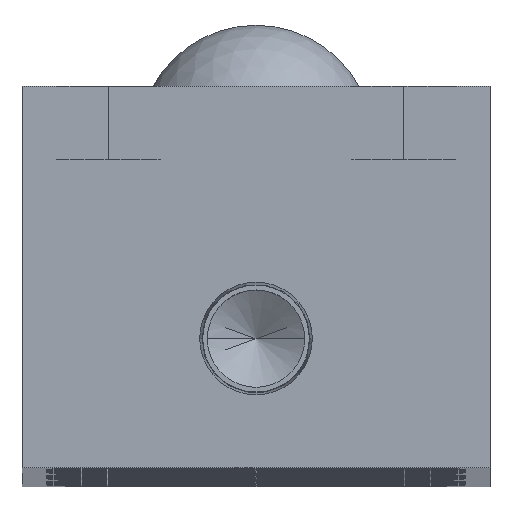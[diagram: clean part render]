
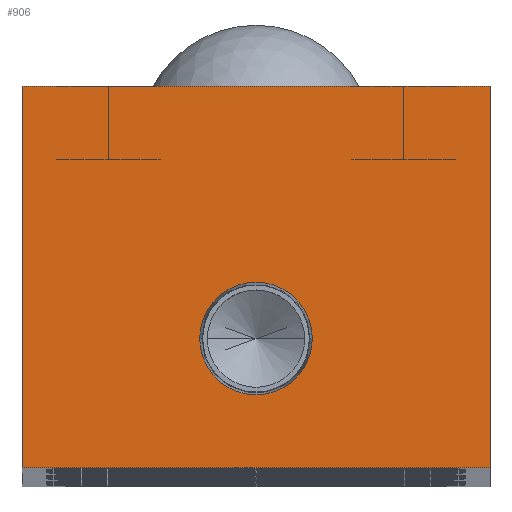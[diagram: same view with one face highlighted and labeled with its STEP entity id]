
A CAD part, top view. The second image highlights one B-rep face of the part: STEP entity #906.
In plain terms, the highlighted planar face has unit normal (0, 0, 1).
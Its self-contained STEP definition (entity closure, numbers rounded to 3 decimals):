
#83 = FACE_OUTER_BOUND ( 'NONE', #9187, .T. ) ;
#174 = DIRECTION ( 'NONE',  ( 0., -1., 0. ) ) ;
#435 = EDGE_CURVE ( 'NONE', #8720, #11253, #15647, .T. ) ;
#906 = ADVANCED_FACE ( 'NONE', ( #12535, #83 ), #2141, .F. ) ;
#1332 = CARTESIAN_POINT ( 'NONE',  ( 0., 10.5, 0. ) ) ;
#1415 = CARTESIAN_POINT ( 'NONE',  ( 19., 0., 0. ) ) ;
#2141 = PLANE ( 'NONE',  #12332 ) ;
#2210 = DIRECTION ( 'NONE',  ( -1., 0., 0. ) ) ;
#2253 = VECTOR ( 'NONE', #174, 1000. ) ;
#2644 = CARTESIAN_POINT ( 'NONE',  ( 19., 31., 0. ) ) ;
#2736 = VERTEX_POINT ( 'NONE', #7935 ) ;
#2841 = ORIENTED_EDGE ( 'NONE', *, *, #435, .T. ) ;
#2888 = DIRECTION ( 'NONE',  ( 1., 0., 0. ) ) ;
#3145 = EDGE_CURVE ( 'NONE', #2736, #8837, #11719, .T. ) ;
#3522 = VECTOR ( 'NONE', #10276, 1000. ) ;
#3552 = VERTEX_POINT ( 'NONE', #1415 ) ;
#5576 = CARTESIAN_POINT ( 'NONE',  ( -19., 31., 0. ) ) ;
#6105 = CARTESIAN_POINT ( 'NONE',  ( -4.574, 10.5, 0. ) ) ;
#6382 = LINE ( 'NONE', #12594, #2253 ) ;
#7151 = DIRECTION ( 'NONE',  ( -1., 0., 0. ) ) ;
#7671 = EDGE_CURVE ( 'NONE', #3552, #8720, #14231, .T. ) ;
#7672 = CARTESIAN_POINT ( 'NONE',  ( -19., 31., 0. ) ) ;
#7836 = CARTESIAN_POINT ( 'NONE',  ( 0., 10.5, 0. ) ) ;
#7935 = CARTESIAN_POINT ( 'NONE',  ( 4.574, 10.5, 0. ) ) ;
#8446 = ORIENTED_EDGE ( 'NONE', *, *, #17530, .F. ) ;
#8720 = VERTEX_POINT ( 'NONE', #2644 ) ;
#8837 = VERTEX_POINT ( 'NONE', #6105 ) ;
#9071 = ORIENTED_EDGE ( 'NONE', *, *, #9391, .T. ) ;
#9187 = EDGE_LOOP ( 'NONE', ( #9071, #14154, #18544, #2841 ) ) ;
#9391 = EDGE_CURVE ( 'NONE', #11253, #20190, #6382, .T. ) ;
#9419 = DIRECTION ( 'NONE',  ( 1., 0., 0. ) ) ;
#10064 = EDGE_CURVE ( 'NONE', #20190, #3552, #11265, .T. ) ;
#10276 = DIRECTION ( 'NONE',  ( 0., 1., 0. ) ) ;
#11253 = VERTEX_POINT ( 'NONE', #7672 ) ;
#11265 = LINE ( 'NONE', #19276, #15459 ) ;
#11554 = DIRECTION ( 'NONE',  ( 0., 0., -1. ) ) ;
#11719 = CIRCLE ( 'NONE', #19998, 4.574 ) ;
#11859 = AXIS2_PLACEMENT_3D ( 'NONE', #1332, #12247, #2888 ) ;
#12247 = DIRECTION ( 'NONE',  ( 0., 0., 1. ) ) ;
#12317 = CARTESIAN_POINT ( 'NONE',  ( -19., 0., 0. ) ) ;
#12332 = AXIS2_PLACEMENT_3D ( 'NONE', #16251, #11554, #2210 ) ;
#12535 = FACE_BOUND ( 'NONE', #17092, .T. ) ;
#12594 = CARTESIAN_POINT ( 'NONE',  ( -19., 0., 0. ) ) ;
#12877 = DIRECTION ( 'NONE',  ( 1., 0., 0. ) ) ;
#14141 = CIRCLE ( 'NONE', #11859, 4.574 ) ;
#14154 = ORIENTED_EDGE ( 'NONE', *, *, #10064, .T. ) ;
#14231 = LINE ( 'NONE', #18178, #3522 ) ;
#15459 = VECTOR ( 'NONE', #12877, 1000. ) ;
#15647 = LINE ( 'NONE', #5576, #16623 ) ;
#16251 = CARTESIAN_POINT ( 'NONE',  ( 0., 0., 0. ) ) ;
#16623 = VECTOR ( 'NONE', #7151, 1000. ) ;
#17092 = EDGE_LOOP ( 'NONE', ( #18519, #8446 ) ) ;
#17530 = EDGE_CURVE ( 'NONE', #8837, #2736, #14141, .T. ) ;
#18178 = CARTESIAN_POINT ( 'NONE',  ( 19., 31., 0. ) ) ;
#18519 = ORIENTED_EDGE ( 'NONE', *, *, #3145, .F. ) ;
#18544 = ORIENTED_EDGE ( 'NONE', *, *, #7671, .T. ) ;
#18841 = DIRECTION ( 'NONE',  ( 0., 0., 1. ) ) ;
#19276 = CARTESIAN_POINT ( 'NONE',  ( 19., 0., 0. ) ) ;
#19998 = AXIS2_PLACEMENT_3D ( 'NONE', #7836, #18841, #9419 ) ;
#20190 = VERTEX_POINT ( 'NONE', #12317 ) ;
